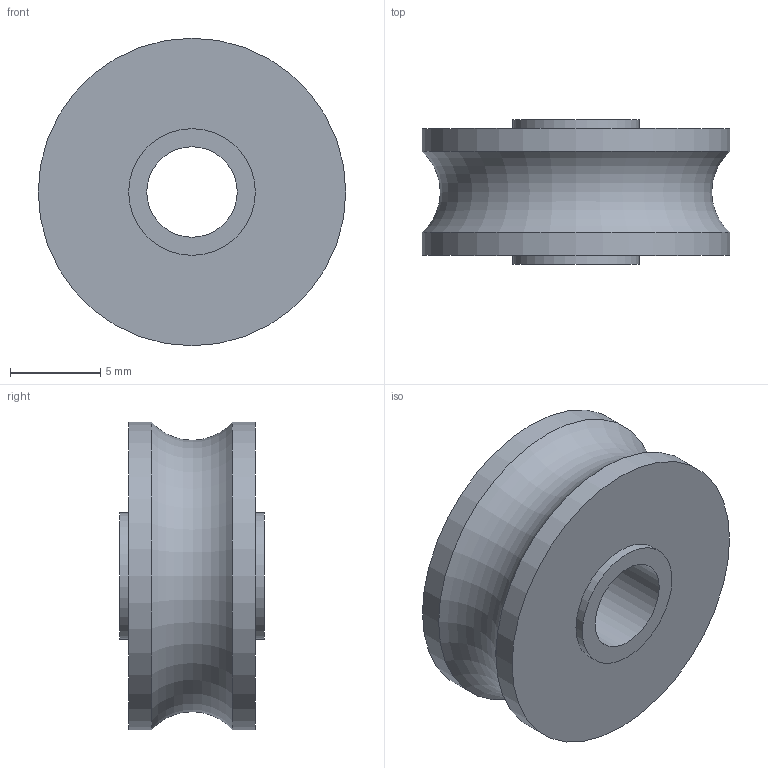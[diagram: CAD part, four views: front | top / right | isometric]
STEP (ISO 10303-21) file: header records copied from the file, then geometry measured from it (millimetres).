
FILE_DESCRIPTION (( 'STEP AP214' ), '1' );
FILE_NAME ('LFR50／5.STEP', '2020-05-12T01:49:17', ( '' ), ( '' ), 'SwSTEP 2.0', 'SolidWorks 2019', '' );
FILE_SCHEMA (( 'AUTOMOTIVE_DESIGN' ));
Length unit declared in the file: millimetre
Products named in the file (1): LFR50／5
Bounding box: 17 x 8 x 17 mm (x, y, z)
Volume: 1312.7 mm3; surface area: 946 mm2
Topology: 1 solids, 1 shells, 10 faces, 16 edges, 10 vertices
Faces by surface type: cylinder 5, plane 4, torus 1
Full cylindrical faces by diameter (mm): 5 x1, 7 x2, 17 x2
Entity records: 242 total; most frequent: DIRECTION 42, CARTESIAN_POINT 31, AXIS2_PLACEMENT_3D 21, EDGE_LOOP 20, ORIENTED_EDGE 20, FACE_OUTER_BOUND 16, ADVANCED_FACE 10, VERTEX_POINT 10
